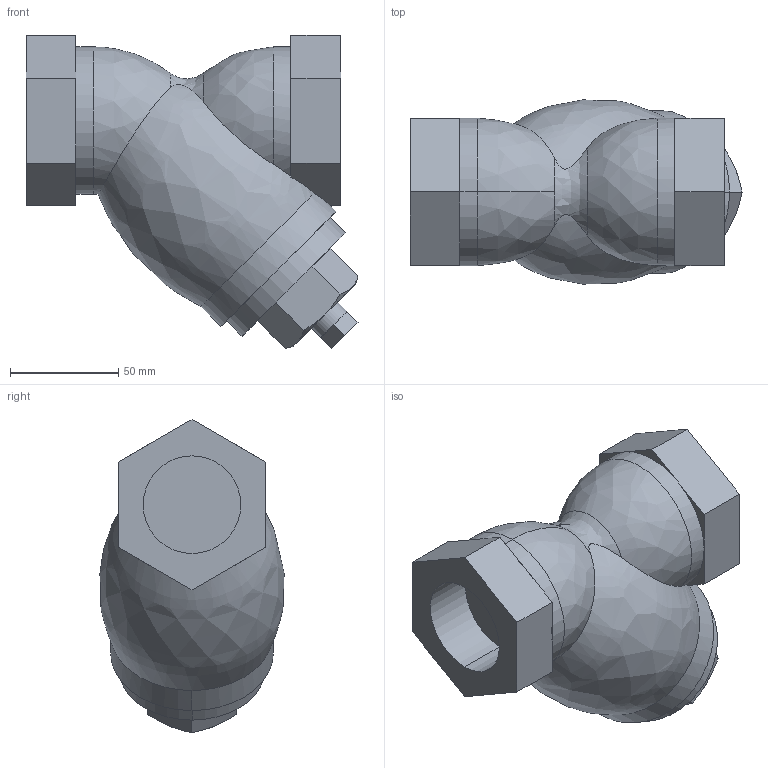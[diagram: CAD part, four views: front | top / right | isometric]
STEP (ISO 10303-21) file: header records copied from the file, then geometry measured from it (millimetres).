
FILE_DESCRIPTION( (''), '2;1');
FILE_NAME ('PC1020.13260.SY-5 40A_16735.stp','2025-02-19T14:33:30',(''),(''),'spGate 20.6.3 (****-****-****-****)','','');
FILE_SCHEMA (('AUTOMOTIVE_DESIGN'));
Length unit declared in the file: millimetre
Bounding box: 153.01 x 84.91 x 144.27 mm (x, y, z)
Volume: 787838.6 mm3; surface area: 65750 mm2
Topology: 1 solids, 1 shells, 69 faces, 157 edges, 95 vertices
Faces by surface type: plane 45, cylinder 13, bspline 11
Entity records: 3590 total; most frequent: CARTESIAN_POINT 815, ORIENTED_EDGE 314, DIRECTION 280, COLOUR_RGB 227, PRESENTATION_STYLE_ASSIGNMENT 227, STYLED_ITEM 227, EDGE_CURVE 157, DRAUGHTING_PRE_DEFINED_CURVE_FONT 157
